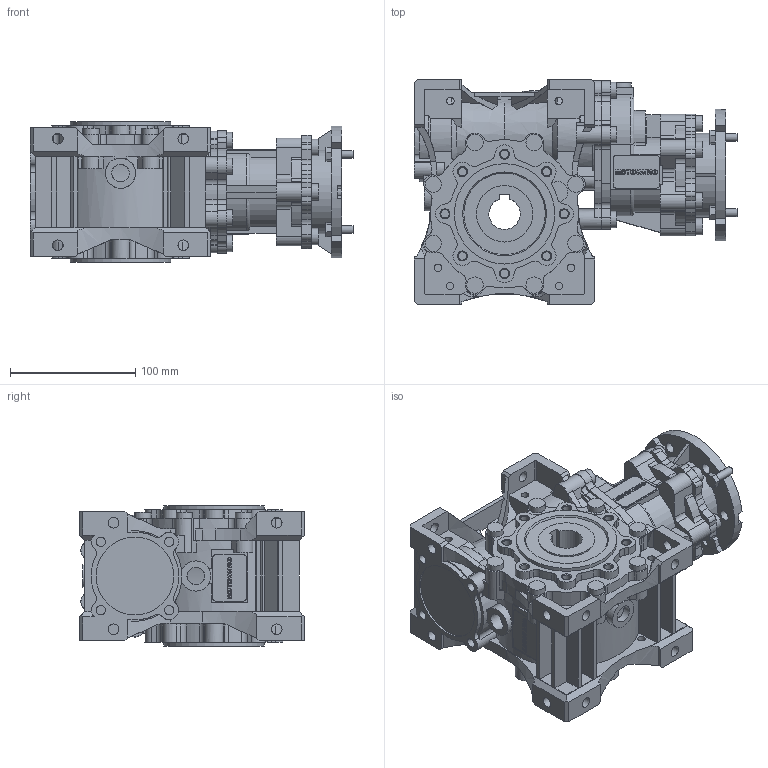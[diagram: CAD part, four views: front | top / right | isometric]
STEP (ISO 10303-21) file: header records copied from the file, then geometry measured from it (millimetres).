
FILE_DESCRIPTION(/* description */ ('STEP AP214'),/* implementation_level */ '2;1');
FILE_NAME(/* name */ 'NMRVP_HW 030-063 71.25 (4.75x15) 105x14 25 NO NO - - NO - - - NO NO - --(--------)',/* time_stamp */ '2024-10-07T11:12:40+02:00',/* author */ ('License CC BY-ND 4.0'),/* organization */ ('CADENAS'),/* preprocessor_version */ 'ST-DEVELOPER v19.3',/* originating_system */ 'PARTsolutions',/* authorisation */ ' ');
FILE_SCHEMA (('AUTOMOTIVE_DESIGN {1 0 10303 214 3 1 1}'));
Products named in the file (8): NMRVP/HW 030-063 71.25 (4.75x15) 105x14 25 NO NO - - NO - - - NO NO -
 --(--------); W.063.01.M; 063-25 (112); W.063.14.14.M-phw; 63-45; HW30; 6371 B14; PC.030.27.14.M
Assembly tree (7 placements, depth 2):
  NMRVP/HW 030-063 71.25 (4.75x15) 105x14 25 NO NO - - NO - - - NO NO -
 --(--------)
    W.063.01.M
    063-25 (112)
    W.063.14.14.M-phw
    63-45
    HW30
    6371 B14
    PC.030.27.14.M
Bounding box: 257.94 x 179 x 112 mm (x, y, z)
Volume: 2203153 mm3; surface area: 356609.7 mm2
Topology: 7 solids, 11 shells, 1905 faces, 5191 edges, 3437 vertices
Faces by surface type: plane 1047, cylinder 791, cone 61, torus 6
Full cylindrical faces by diameter (mm): 6 x16, 6.647 x16, 7.26 x12, 7.8 x1, 8.5 x20, 13 x20, 14 x3, 18 x1, 20 x1, 24 x1, 27 x1, 29 x1, 34 x1, 35 x2, 37 x1, 44 x1, 45 x3, 62 x3, 68 x4, 70 x1, 80 x2
Entity records: 73357 total; most frequent: CARTESIAN_POINT 11164, DIRECTION 10407, ORIENTED_EDGE 10040, EDGE_CURVE 5020, AXIS2_PLACEMENT_3D 3697, VERTEX_POINT 3406, LINE 3013, VECTOR 3013
